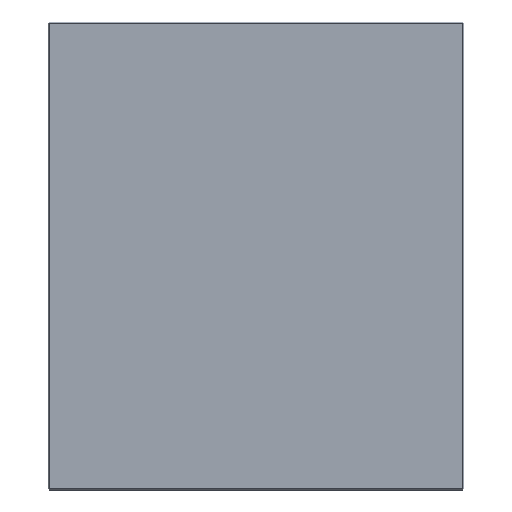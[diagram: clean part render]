
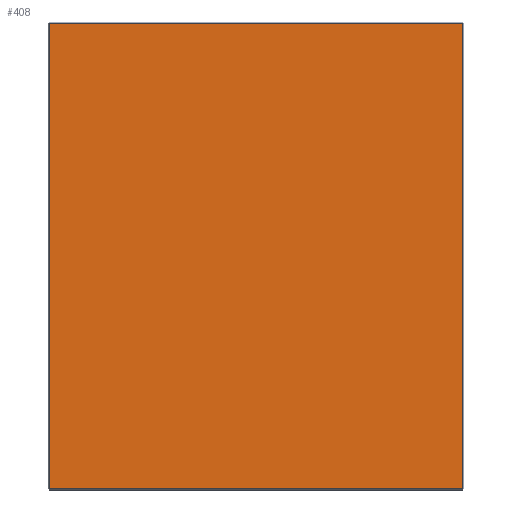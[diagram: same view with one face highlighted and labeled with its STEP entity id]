
A CAD part, front view. The second image highlights one B-rep face of the part: STEP entity #408.
In plain terms, the highlighted planar face has unit normal (0, -1, 0).
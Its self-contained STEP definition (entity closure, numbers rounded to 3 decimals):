
#2 = FACE_OUTER_BOUND ( 'NONE', #447, .T. ) ;
#10 = VECTOR ( 'NONE', #546, 1000. ) ;
#16 = VERTEX_POINT ( 'NONE', #105 ) ;
#17 = CARTESIAN_POINT ( 'NONE',  ( -198., 0., 222. ) ) ;
#47 = VECTOR ( 'NONE', #357, 1000. ) ;
#83 = CARTESIAN_POINT ( 'NONE',  ( 197., 0., 223. ) ) ;
#88 = CARTESIAN_POINT ( 'NONE',  ( 197., 0., -222. ) ) ;
#105 = CARTESIAN_POINT ( 'NONE',  ( -197., 0., -222. ) ) ;
#129 = LINE ( 'NONE', #17, #10 ) ;
#130 = DIRECTION ( 'NONE',  ( 1., 0., 0. ) ) ;
#151 = LINE ( 'NONE', #83, #47 ) ;
#160 = VERTEX_POINT ( 'NONE', #88 ) ;
#165 = CARTESIAN_POINT ( 'NONE',  ( -197., 0., 222. ) ) ;
#173 = DIRECTION ( 'NONE',  ( 0., 0., -1. ) ) ;
#181 = PLANE ( 'NONE',  #608 ) ;
#191 = ORIENTED_EDGE ( 'NONE', *, *, #402, .T. ) ;
#202 = EDGE_CURVE ( 'NONE', #160, #560, #151, .T. ) ;
#210 = ORIENTED_EDGE ( 'NONE', *, *, #202, .T. ) ;
#214 = EDGE_CURVE ( 'NONE', #16, #160, #437, .T. ) ;
#240 = CARTESIAN_POINT ( 'NONE',  ( 198., 0., -222. ) ) ;
#248 = ORIENTED_EDGE ( 'NONE', *, *, #214, .T. ) ;
#273 = ORIENTED_EDGE ( 'NONE', *, *, #514, .T. ) ;
#290 = CARTESIAN_POINT ( 'NONE',  ( -197., 0., -223. ) ) ;
#357 = DIRECTION ( 'NONE',  ( 0., 0., 1. ) ) ;
#402 = EDGE_CURVE ( 'NONE', #512, #16, #533, .T. ) ;
#408 = ADVANCED_FACE ( 'NONE', ( #2 ), #181, .T. ) ;
#420 = VECTOR ( 'NONE', #130, 1000. ) ;
#437 = LINE ( 'NONE', #240, #420 ) ;
#447 = EDGE_LOOP ( 'NONE', ( #191, #248, #210, #273 ) ) ;
#464 = DIRECTION ( 'NONE',  ( 0., 0., -1. ) ) ;
#512 = VERTEX_POINT ( 'NONE', #165 ) ;
#514 = EDGE_CURVE ( 'NONE', #560, #512, #129, .T. ) ;
#516 = VECTOR ( 'NONE', #464, 1000. ) ;
#533 = LINE ( 'NONE', #290, #516 ) ;
#546 = DIRECTION ( 'NONE',  ( -1., 0., 0. ) ) ;
#560 = VERTEX_POINT ( 'NONE', #573 ) ;
#573 = CARTESIAN_POINT ( 'NONE',  ( 197., 0., 222. ) ) ;
#608 = AXIS2_PLACEMENT_3D ( 'NONE', #625, #629, #173 ) ;
#625 = CARTESIAN_POINT ( 'NONE',  ( 0., 0., 0. ) ) ;
#629 = DIRECTION ( 'NONE',  ( 0., -1., 0. ) ) ;
